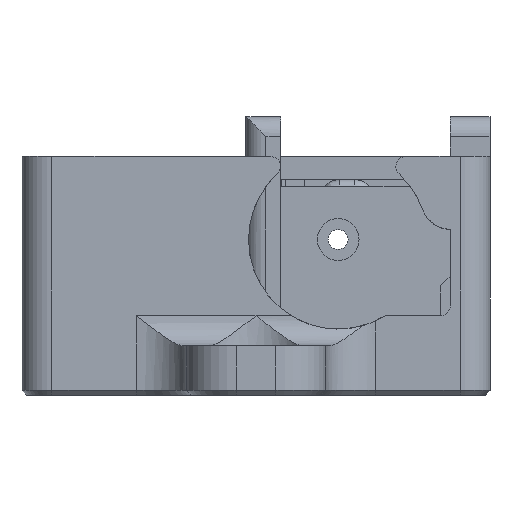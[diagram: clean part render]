
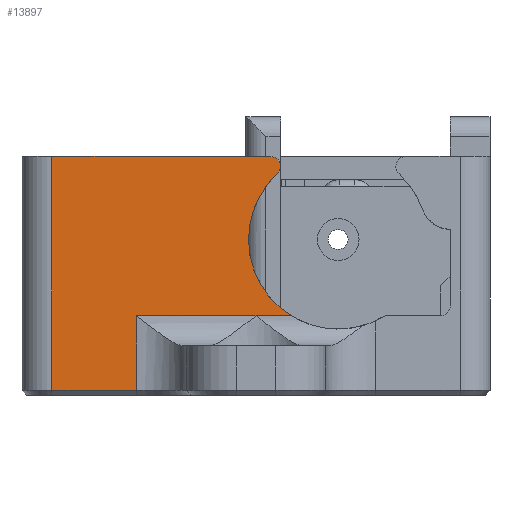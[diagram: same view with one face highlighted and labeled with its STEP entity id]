
A CAD part, left-side view. The second image highlights one B-rep face of the part: STEP entity #13897.
In plain terms, the highlighted planar face has unit normal (-1, 0, 0).
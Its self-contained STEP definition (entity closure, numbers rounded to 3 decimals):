
#4021=DIRECTION('',(0.,1.,0.));
#4022=VECTOR('',#4021,8.5);
#4023=CARTESIAN_POINT('',(-45.,99.,
-1.5));
#4024=LINE('',#4023,#4022);
#4025=DIRECTION('',(0.,0.,-1.));
#4026=VECTOR('',#4025,23.5);
#4027=CARTESIAN_POINT('',(-45.,107.5,22.));
#4028=LINE('',#4027,#4026);
#4029=DIRECTION('',(0.,1.,0.));
#4030=VECTOR('',#4029,21.957);
#4031=CARTESIAN_POINT('',(-45.,85.543,22.));
#4032=LINE('',#4031,#4030);
#4033=CARTESIAN_POINT('',(-45.,85.543,21.));
#4034=DIRECTION('',(1.,0.,0.));
#4035=DIRECTION('',(0.,0.,1.));
#4036=AXIS2_PLACEMENT_3D('',#4033,#4034,#4035);
#4038=CARTESIAN_POINT('',(-45.,78.75,13.661));
#4039=DIRECTION('',(-1.,0.,0.));
#4040=DIRECTION('',(0.,0.679,0.734));
#4041=AXIS2_PLACEMENT_3D('',#4038,#4039,#4040);
#4089=CARTESIAN_POINT('',(-45.,87.,6.));
#4091=DIRECTION('',(0.,1.,0.));
#4092=VECTOR('',#4091,3.527);
#4093=CARTESIAN_POINT('',(-45.,83.473,6.));
#4094=LINE('',#4093,#4092);
#4102=CARTESIAN_POINT('',(-45.,83.473,6.));
#4116=CARTESIAN_POINT('',(-45.,99.,6.));
#4131=DIRECTION('',(0.,1.,0.));
#4132=VECTOR('',#4131,12.);
#4133=CARTESIAN_POINT('',(-45.,87.,6.));
#4134=LINE('',#4133,#4132);
#4194=DIRECTION('',(0.,0.,-1.));
#4195=VECTOR('',#4194,7.5);
#4196=CARTESIAN_POINT('',(-45.,99.,6.));
#4197=LINE('',#4196,#4195);
#7169=CARTESIAN_POINT('',(-45.,107.5,22.));
#7171=VERTEX_POINT('',#7169);
#7225=VERTEX_POINT('',#4116);
#7226=VERTEX_POINT('',#4102);
#7231=VERTEX_POINT('',#4089);
#7245=CARTESIAN_POINT('',(-45.,85.543,22.));
#7246=VERTEX_POINT('',#7245);
#7247=CARTESIAN_POINT('',(-45.,84.864,20.266));
#7248=VERTEX_POINT('',#7247);
#8299=CARTESIAN_POINT('',(-45.,107.5,-1.5));
#8300=VERTEX_POINT('',#8299);
#8303=CARTESIAN_POINT('',(-45.,99.,
-1.5));
#8304=VERTEX_POINT('',#8303);
#13879=CARTESIAN_POINT('',(-45.,64.5,0.));
#13880=DIRECTION('',(1.,0.,0.));
#13881=DIRECTION('',(0.,1.,0.));
#13882=AXIS2_PLACEMENT_3D('',#13879,#13880,#13881);
#13883=PLANE('',#13882);
#13884=ORIENTED_EDGE('',*,*,#11543,.T.);
#13885=ORIENTED_EDGE('',*,*,#13874,.F.);
#13886=ORIENTED_EDGE('',*,*,#11713,.F.);
#13887=ORIENTED_EDGE('',*,*,#11887,.T.);
#13888=ORIENTED_EDGE('',*,*,#11856,.T.);
#13890=ORIENTED_EDGE('',*,*,#13889,.T.);
#13892=ORIENTED_EDGE('',*,*,#13891,.T.);
#13894=ORIENTED_EDGE('',*,*,#13893,.T.);
#13895=EDGE_LOOP('',(#13884,#13885,#13886,#13887,#13888,#13890,#13892,#13894));
#13896=FACE_OUTER_BOUND('',#13895,.F.);
#13897=ADVANCED_FACE('',(#13896),#13883,.F.);
#4037=CIRCLE('',#4036,1.);
#4042=CIRCLE('',#4041,9.);
#11543=EDGE_CURVE('',#8304,#8300,#4024,.T.);
#11713=EDGE_CURVE('',#7246,#7171,#4032,.T.);
#11856=EDGE_CURVE('',#7248,#7226,#4042,.T.);
#11887=EDGE_CURVE('',#7246,#7248,#4037,.T.);
#13874=EDGE_CURVE('',#7171,#8300,#4028,.T.);
#13889=EDGE_CURVE('',#7226,#7231,#4094,.T.);
#13891=EDGE_CURVE('',#7231,#7225,#4134,.T.);
#13893=EDGE_CURVE('',#7225,#8304,#4197,.T.);
